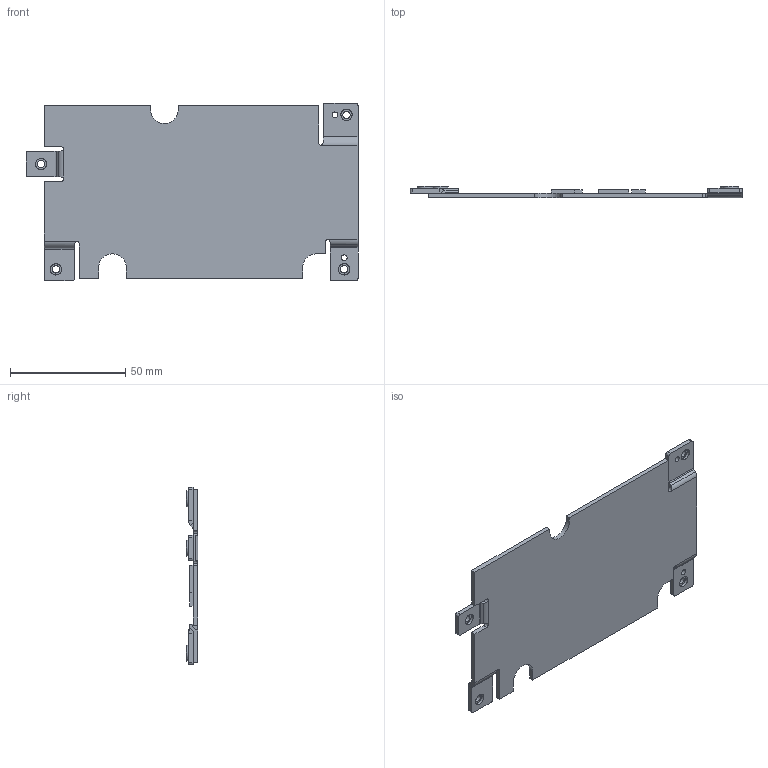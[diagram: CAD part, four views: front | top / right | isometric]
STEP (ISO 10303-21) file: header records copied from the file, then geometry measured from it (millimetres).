
FILE_DESCRIPTION((''),'2;1');
FILE_NAME('HEA_SPREADER_BOTTOM_SOC_ASSY_ASM','2020-08-21T',('G6003023'),(''),'PRO/ENGINEER BY PARAMETRIC TECHNOLOGY CORPORATION, 2013150','PRO/ENGINEER BY PARAMETRIC TECHNOLOGY CORPORATION, 2013150','');
FILE_SCHEMA(('CONFIG_CONTROL_DESIGN'));
Length unit declared in the file: millimetre
Products named in the file (5): HEATSPREADER_SOC_BOTTOM; THERMAL_PAD_SOC_BOTTOM_01-K5; THERMAL_PAD_SOC_BOTTOM_02-K5; SCREW-NUT-THROUGH-D3; HEA_SPREADER_BOTTOM_SOC_ASSY_ASM
Assembly tree (10 placements, depth 2):
  HEA_SPREADER_BOTTOM_SOC_ASSY_ASM
    HEATSPREADER_SOC_BOTTOM
    THERMAL_PAD_SOC_BOTTOM_01-K5
    THERMAL_PAD_SOC_BOTTOM_02-K5  x4
    SCREW-NUT-THROUGH-D3  x4
Bounding box: 144 x 5 x 77.07 mm (x, y, z)
Volume: 20465.8 mm3; surface area: 22622.5 mm2
Topology: 10 solids, 10 shells, 983 faces, 2762 edges, 1812 vertices
Faces by surface type: plane 518, cylinder 428, cone 32, bspline 5
Entity records: 11984 total; most frequent: CARTESIAN_POINT 2278, DIRECTION 2040, ORIENTED_EDGE 1996, EDGE_CURVE 998, VECTOR 698, LINE 698, AXIS2_PLACEMENT_3D 671, VERTEX_POINT 642
